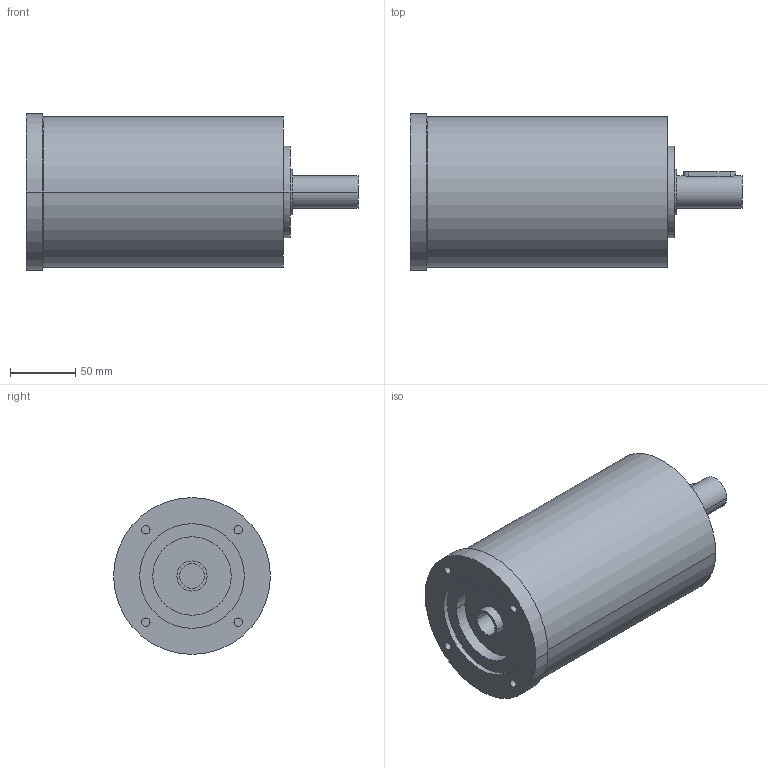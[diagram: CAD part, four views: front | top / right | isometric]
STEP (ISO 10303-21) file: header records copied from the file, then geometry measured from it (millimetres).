
FILE_DESCRIPTION(('CoCreate Modeling STEP Export'),'2;1');
FILE_NAME('GPR125_ig-48-64-80-100-140-196-245-343_25_B14_19_P05.stp','2014-08-26T14:21:45',(''),(''),'CoCreate Modeling STEP processor for AP214 (Solid Model)','CoCreate Modeling 16.00C 25-Feb-2009 (C) Parametric Technology GmbH','');
FILE_SCHEMA(('AUTOMOTIVE_DESIGN { 1 0 10303 214 1 1 1 1 }'));
Length unit declared in the file: millimetre
Products named in the file (2): GPR125_ig-48-64-80-100-140-196-245-343_25_B14_19_P05
Assembly tree (1 placements, depth 2):
  GPR125_ig-48-64-80-100-140-196-245-343_25_B14_19_P05
    GPR125_ig-48-64-80-100-140-196-245-343_25_B14_19_P05
Bounding box: 254 x 120 x 120 mm (x, y, z)
Volume: 2043475.1 mm3; surface area: 109585.6 mm2
Topology: 1 solids, 1 shells, 75 faces, 190 edges, 136 vertices
Faces by surface type: cylinder 46, plane 25, cone 4
Entity records: 1925 total; most frequent: ORIENTED_EDGE 376, CARTESIAN_POINT 357, DIRECTION 250, EDGE_CURVE 188, VERTEX_POINT 136, AXIS2_PLACEMENT_3D 97, EDGE_LOOP 96, FACE_OUTER_BOUND 75
